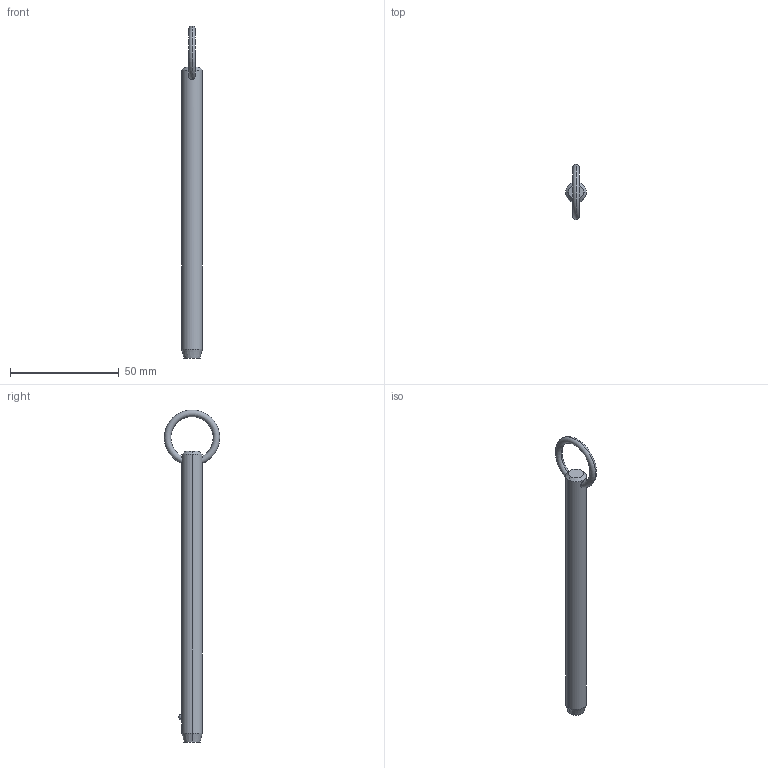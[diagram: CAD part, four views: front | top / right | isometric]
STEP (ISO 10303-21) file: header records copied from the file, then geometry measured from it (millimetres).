
FILE_DESCRIPTION (( 'STEP AP203' ), '1' );
FILE_NAME ('P1250.037-450.step', '2019-07-29T20:11:22', ( '' ), ( '' ), 'SwSTEP 2.0', 'SolidWorks 2017', '' );
FILE_SCHEMA (( 'CONFIG_CONTROL_DESIGN' ));
Length unit declared in the file: millimetre
Products named in the file (1): P1250.037-450
Bounding box: 9.52 x 25.39 x 152.4 mm (x, y, z)
Volume: 9843.1 mm3; surface area: 4630.4 mm2
Topology: 1 solids, 1 shells, 12 faces, 28 edges, 17 vertices
Faces by surface type: cone 4, torus 2, sphere 2, cylinder 2, plane 2
Entity records: 523 total; most frequent: CARTESIAN_POINT 190, DIRECTION 56, ORIENTED_EDGE 48, AXIS2_PLACEMENT_3D 25, EDGE_CURVE 24, EDGE_LOOP 15, VERTEX_POINT 15, CIRCLE 12
